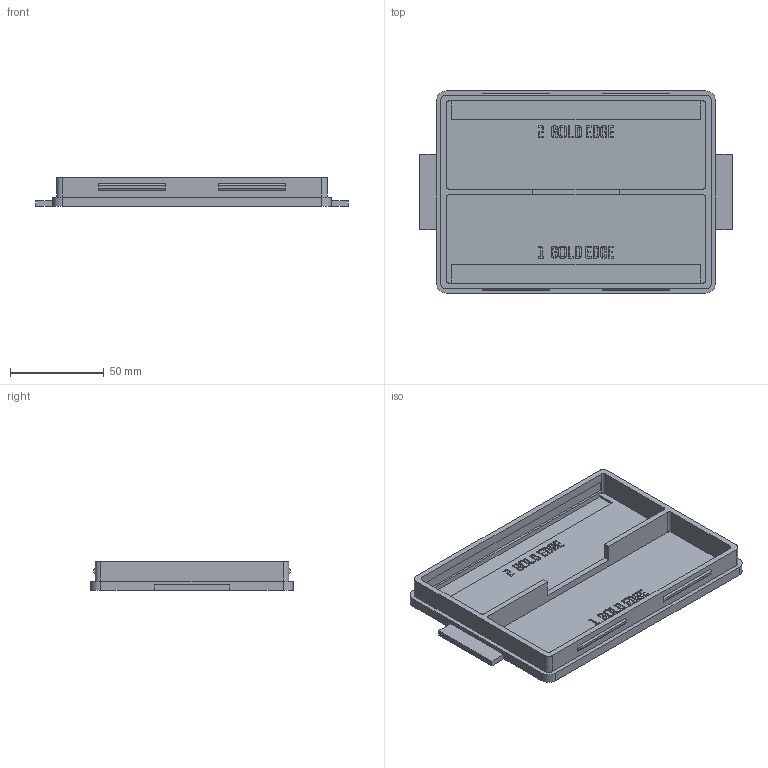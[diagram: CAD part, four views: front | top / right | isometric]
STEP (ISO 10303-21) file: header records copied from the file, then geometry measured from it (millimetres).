
FILE_DESCRIPTION(('Open CASCADE Model'),'2;1');
FILE_NAME('Open CASCADE Shape Model','2026-11-03T10:24:06',('Author'),( 'Open CASCADE'),'Open CASCADE STEP processor 8.0','build123d', 'Unknown');
FILE_SCHEMA(('AUTOMOTIVE_DESIGN { 1 0 10303 214 1 1 1 1 }'));
Products named in the file (1): COMPOUND
Bounding box: 166.5 x 107.5 x 15.4 mm (x, y, z)
Volume: 61024.3 mm3; surface area: 51543.5 mm2
Topology: 1 solids, 1 shells, 1937 faces, 5715 edges, 3810 vertices
Faces by surface type: plane 1921, cylinder 16
Entity records: 133902 total; most frequent: CARTESIAN_POINT 26849, DIRECTION 17285, LINE 13325, VECTOR 13325, ORIENTED_EDGE 11430, PCURVE 11430, DEFINITIONAL_REPRESENTATION 11430, EDGE_CURVE 5715
